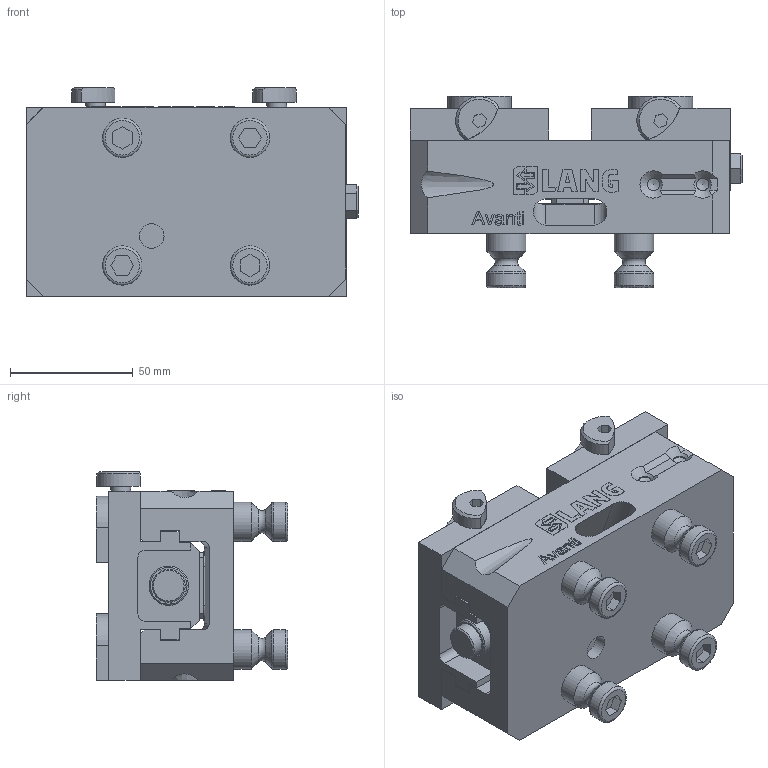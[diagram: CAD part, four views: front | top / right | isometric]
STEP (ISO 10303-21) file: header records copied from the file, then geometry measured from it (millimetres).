
FILE_DESCRIPTION (( 'STEP AP214' ), '1' );
FILE_NAME ('44120-77.STEP', '2020-02-07T15:04:50', ( '' ), ( '' ), 'SwSTEP 2.0', 'SolidWorks 2019', '' );
FILE_SCHEMA (( 'AUTOMOTIVE_DESIGN' ));
Length unit declared in the file: millimetre
Products named in the file (3): Avanti_44120-77; 44771-77; 44120-77
Assembly tree (3 placements, depth 2):
  44120-77
    Avanti_44120-77
    44771-77  x2
Bounding box: 135.21 x 78 x 85.1 mm (x, y, z)
Volume: 459658.2 mm3; surface area: 108857.4 mm2
Topology: 54 solids, 54 shells, 1008 faces, 2574 edges, 1693 vertices
Faces by surface type: plane 765, bspline 132, cylinder 68, cone 31, torus 12
Full cylindrical faces by diameter (mm): 5 x4, 6.8 x4, 8 x2, 10 x1, 12 x8, 13.5 x1, 16 x12
Entity records: 41338 total; most frequent: CARTESIAN_POINT 8777, ORIENTED_EDGE 4638, DIRECTION 3768, EDGE_CURVE 2319, LINE 1880, VECTOR 1880, VERTEX_POINT 1565, EDGE_LOOP 1052
